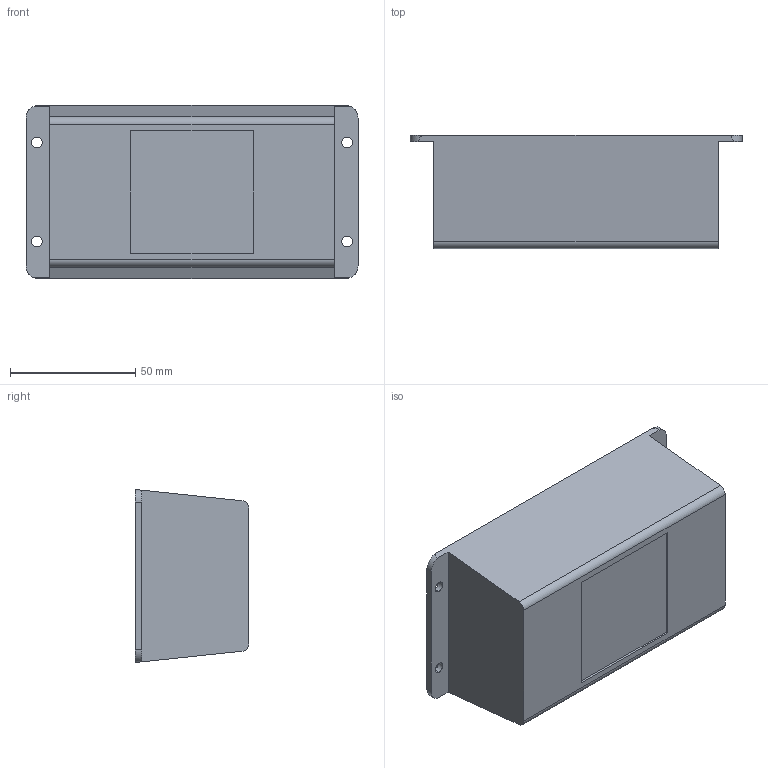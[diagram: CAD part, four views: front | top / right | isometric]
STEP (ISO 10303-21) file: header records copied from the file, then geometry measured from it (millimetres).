
FILE_DESCRIPTION (( 'STEP AP214' ), '1' );
FILE_NAME ('Tapa PP89.STEP', '2017-10-11T06:52:39', ( 'aaa' ), ( '' ), 'SwSTEP 2.0', 'SolidWorks 2013', '' );
FILE_SCHEMA (( 'AUTOMOTIVE_DESIGN' ));
Length unit declared in the file: millimetre
Products named in the file (1): Tapa PP89
Bounding box: 132.4 x 45.2 x 69 mm (x, y, z)
Volume: 49547.9 mm3; surface area: 51555.8 mm2
Topology: 1 solids, 1 shells, 66 faces, 166 edges, 108 vertices
Faces by surface type: cylinder 30, plane 28, cone 8
Entity records: 2044 total; most frequent: CARTESIAN_POINT 377, DIRECTION 356, ORIENTED_EDGE 332, EDGE_CURVE 166, AXIS2_PLACEMENT_3D 135, VERTEX_POINT 108, LINE 86, VECTOR 86
